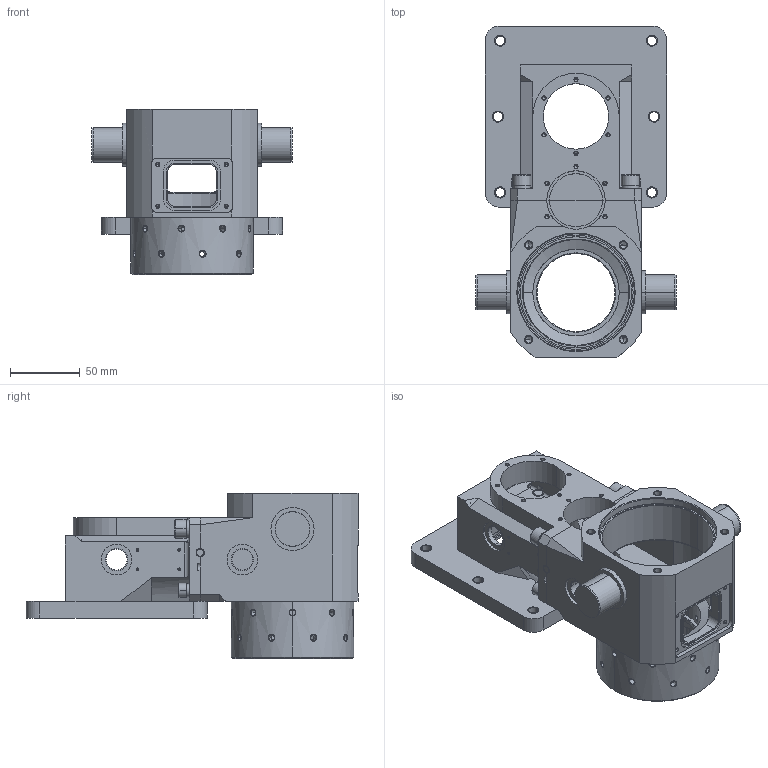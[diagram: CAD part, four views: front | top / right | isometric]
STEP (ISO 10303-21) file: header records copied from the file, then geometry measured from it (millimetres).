
FILE_DESCRIPTION((''),'2;1');
FILE_NAME('NV005A_0308_01_XIANGTIZUJIAN_ASM','2025-10-08T',('sfc-lishengjun'),(''),'PRO/ENGINEER BY PARAMETRIC TECHNOLOGY CORPORATION, 2014310','PRO/ENGINEER BY PARAMETRIC TECHNOLOGY CORPORATION, 2014310','');
FILE_SCHEMA(('CONFIG_CONTROL_DESIGN'));
Length unit declared in the file: millimetre
Products named in the file (10): NV005A_0308_42_TOPBOX2_AF0; NV005A_0308-41-GEARBOX_AF0; NV005A_0308-40-XIANGTIDIBAN; TANDIAN8-30CR13_GB93-87; BOLT8X25-A2-70_GBT70D1-2008; TANDIAN6-30CR13_GB93-87; BOLT6X25-A2-70_GBT70D1-2008; BOLT8X25-A2-70_GBT70D3-2000; XIAO6X5-A1_GBT119D1-2000; NV005A_0308_01_XIANGTIZUJIAN_ASM
Assembly tree (17 placements, depth 2):
  NV005A_0308_01_XIANGTIZUJIAN_ASM
    NV005A_0308_42_TOPBOX2_AF0
    NV005A_0308-41-GEARBOX_AF0
    NV005A_0308-40-XIANGTIDIBAN
    TANDIAN8-30CR13_GB93-87  x2
    BOLT8X25-A2-70_GBT70D1-2008  x2
    TANDIAN6-30CR13_GB93-87  x2
    BOLT6X25-A2-70_GBT70D1-2008  x2
    BOLT8X25-A2-70_GBT70D3-2000  x4
    XIAO6X5-A1_GBT119D1-2000  x2
Bounding box: 144 x 238.25 x 118.5 mm (x, y, z)
Volume: 686158.2 mm3; surface area: 215258.1 mm2
Topology: 17 solids, 89 shells, 884 faces, 2388 edges, 1569 vertices
Faces by surface type: cylinder 446, plane 295, cone 121, torus 16, bspline 4, sphere 2
Entity records: 25982 total; most frequent: CARTESIAN_POINT 6276, DIRECTION 4270, ORIENTED_EDGE 3702, EDGE_CURVE 2036, AXIS2_PLACEMENT_3D 1691, VERTEX_POINT 1389, EDGE_LOOP 933, CIRCLE 904
